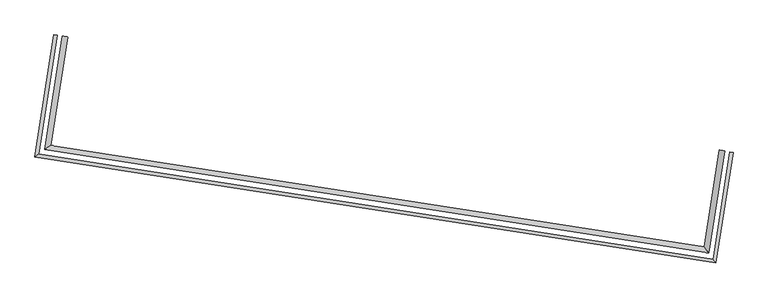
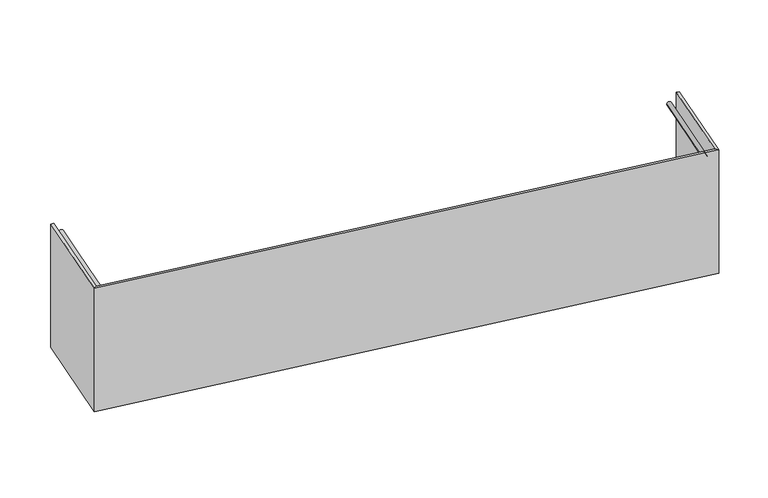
"""IFC4 building model written with IfcOpenShell, lengths in millimetres: railing geometry, Panel de vidrio - balcón."""

from ifc_helpers import new_model, si_unit, frame, origin, place, context, project, spatial, circle_curve, ellipse_curve, faceted_brep, source, transform, mapped, element, save
from ifc_brep_helpers import plane_surface, cylinder_surface, advanced_brep


def railing_e2c887e3(model_context):
    return source(origin(), model_context, "Body", "SolidModel", [
        faceted_brep([(-35613.2389715, -61806.7459681, 13745.385397), (-35613.2389715, -61806.7459681, 12545.385397), (-35637.9407042, -61802.8957211, 12545.385397), (-35637.9407042, -61802.8957211, 13745.385397), (-35767.6026057, -62634.7575847, 13745.385397), (-35746.75112, -62663.3095643, 13745.385397), (-35767.6026057, -62634.7575847, 12545.385397), (-35746.75112, -62663.3095643, 12545.385397), (-40988.3758738, -61820.998231, 13745.385397), (-41016.9278535, -61841.8497168, 13745.385397), (-40988.3758738, -61820.998231, 12545.385397), (-41016.9278535, -61841.8497168, 12545.385397), (-40869.554814, -60896.3598705, 13745.385397), (-40844.8530813, -60900.2101175, 13745.385397), (-40844.8530813, -60900.2101175, 12545.385397), (-40869.554814, -60896.3598705, 12545.385397)], [[[0, 1, 2, 3]], [[0, 3, 4, 5]], [[3, 2, 6, 4]], [[2, 1, 7, 6]], [[1, 0, 5, 7]], [[5, 4, 8, 9]], [[4, 6, 10, 8]], [[6, 7, 11, 10]], [[7, 5, 9, 11]], [[12, 13, 14, 15]], [[9, 8, 13, 12]], [[8, 10, 14, 13]], [[10, 11, 15, 14]], [[11, 9, 12, 15]]]),
        advanced_brep(
        [(-35718.8699084, -61790.2813256, 13650.0), (-35679.3471361, -61796.4417208, 13650.0), (-35802.5550374, -62586.8971527, 13650.0), (-35835.9174145, -62541.2139854, 13650.0), (-40940.5154416, -61786.0457992, 13650.0), (-40894.8322741, -61752.683422, 13650.0), (-40763.9238771, -60912.8245129, 13650.0), (-40803.4466494, -60906.6641178, 13650.0)],
        [
            (0, 1, circle_curve(frame((-35699.1085223, -61793.3615232, 13650.0), z_axis=(0.15400987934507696, 0.9880693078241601, 0.0), x_axis=(0.9880693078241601, -0.15400987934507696, 0.0)), 20.0)),
            (1, 0, circle_curve(frame((-35699.1085223, -61793.3615232, 13650.0), z_axis=(0.15400987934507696, 0.9880693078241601, 0.0), x_axis=(0.9880693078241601, -0.15400987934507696, 0.0)), 20.0)),
            (1, 2),
            (2, 3, ellipse_curve(frame((-35819.2362259, -62564.0555691, 13650.0), z_axis=(0.8075719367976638, 0.5897690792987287, 0.0), x_axis=(-0.5897690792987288, 0.8075719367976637, 0.0)), 28.2842712, 20.0)),
            (3, 0),
            (3, 2, ellipse_curve(frame((-35819.2362259, -62564.0555691, 13650.0), z_axis=(0.8075719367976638, 0.5897690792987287, 0.0), x_axis=(-0.5897690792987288, 0.8075719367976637, 0.0)), 28.2842712, 20.0)),
            (2, 4),
            (4, 5, ellipse_curve(frame((-40917.6738579, -61769.3646106, 13650.0), z_axis=(0.5897690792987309, -0.8075719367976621, 0.0), x_axis=(0.8075719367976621, 0.5897690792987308, 0.0)), 28.2842713, 20.0)),
            (5, 3),
            (5, 4, ellipse_curve(frame((-40917.6738579, -61769.3646106, 13650.0), z_axis=(0.5897690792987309, -0.8075719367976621, 0.0), x_axis=(0.8075719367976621, 0.5897690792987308, 0.0)), 28.2842713, 20.0)),
            (6, 7, circle_curve(frame((-40783.6852633, -60909.7443153, 13650.0), z_axis=(0.15400987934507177, 0.9880693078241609, 0.0), x_axis=(-0.9880693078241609, 0.15400987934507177, 0.0)), 20.0)),
            (7, 6, circle_curve(frame((-40783.6852633, -60909.7443153, 13650.0), z_axis=(0.15400987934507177, 0.9880693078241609, 0.0), x_axis=(-0.9880693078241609, 0.15400987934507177, 0.0)), 20.0)),
            (4, 7),
            (6, 5),
        ],
        [
            plane_surface(frame((-35699.1085223, -61793.3615232, 13650.0), z_axis=(0.15400987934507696, 0.9880693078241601, 0.0), x_axis=(0.9880693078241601, -0.15400987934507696, 0.0))),
            cylinder_surface(frame((-35699.1085223, -61793.3615232, 13650.0), z_axis=(0.15400987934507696, 0.9880693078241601, 0.0), x_axis=(0.9880693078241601, -0.15400987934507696, 0.0)), 20.0),
            cylinder_surface(frame((-35819.2362259, -62564.0555691, 13650.0), z_axis=(0.9880693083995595, -0.15400987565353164, 0.0), x_axis=(-0.15400987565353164, -0.9880693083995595, 0.0)), 20.0),
            plane_surface(frame((-40783.6852633, -60909.7443153, 13650.0), z_axis=(0.15400987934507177, 0.9880693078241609, 0.0), x_axis=(0.9880693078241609, -0.15400987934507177, 0.0))),
            cylinder_surface(frame((-40917.6738579, -61769.3646106, 13650.0), z_axis=(-0.15400987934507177, -0.9880693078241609, 0.0), x_axis=(-0.9880693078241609, 0.15400987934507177, 0.0)), 20.0),
        ],
        [
            (0, [[1, 2]]),
            (1, [[-2, 3, 4, 5]]),
            (1, [[-1, -5, 6, -3]]),
            (2, [[-4, 7, 8, 9]]),
            (2, [[-6, -9, 10, -7]]),
            (3, [[11, 12]]),
            (4, [[-8, 13, -11, 14]]),
            (4, [[-10, -14, -12, -13]]),
        ],
    ),
    ])


if __name__ == "__main__":
    model = new_model("IFC4")
    model_context = context("Model", 3, world=origin())
    ifc_project = project(units=[si_unit("LENGTHUNIT", "METRE", prefix="MILLI")], contexts=[model_context])
    site = spatial("IfcSite", under=ifc_project)
    building = spatial("IfcBuilding", under=site)
    placement = place(None, origin())
    railing_shape = railing_e2c887e3(model_context)
    element("IfcRailing", 1, ObjectType="Panel de vidrio - balcón", at=placement, inside=building, context=model_context, shape_type="MappedRepresentation", body=[
        mapped(railing_shape, transform((0.0, 0.0, 0.0), x_axis=(1.0, 0.0, 0.0), y_axis=(0.0, 1.0, 0.0), z_axis=(0.0, 0.0, 1.0))),
    ])
    save(model, "model.ifc")
